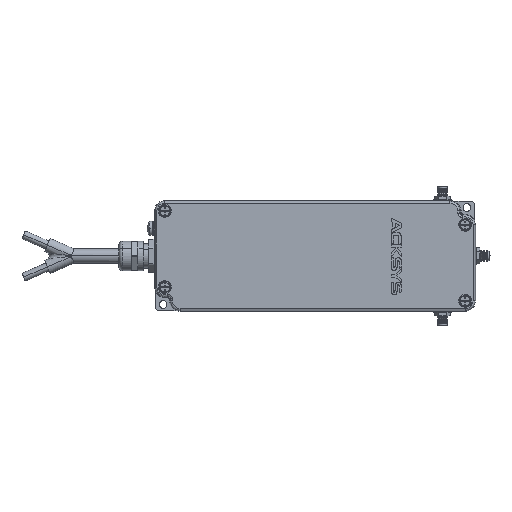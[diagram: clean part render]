
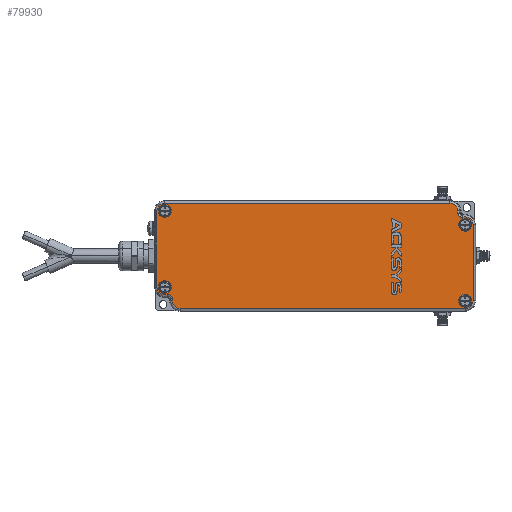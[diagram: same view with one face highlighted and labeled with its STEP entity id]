
A CAD part, top view. The second image highlights one B-rep face of the part: STEP entity #79930.
In plain terms, the highlighted planar face has unit normal (0, 0, 1).
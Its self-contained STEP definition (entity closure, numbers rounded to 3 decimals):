
#74762=CARTESIAN_POINT('',(90.45,18.0,34.5));
#74763=VERTEX_POINT('',#74762);
#74779=CARTESIAN_POINT('',(83.05,18.0,34.5));
#74780=VERTEX_POINT('',#74779);
#74787=CARTESIAN_POINT('',(86.75,18.0,34.5));
#74788=DIRECTION('',(0.0,0.0,-1.0));
#74789=DIRECTION('',(1.0,0.0,0.0));
#74790=AXIS2_PLACEMENT_3D('',#74787,#74788,#74789);
#74791=CIRCLE('',#74790,3.7);
#74792=EDGE_CURVE('',#74763,#74780,#74791,.T.);
#74942=CARTESIAN_POINT('',(90.45,-26.0,34.5));
#74943=VERTEX_POINT('',#74942);
#74959=CARTESIAN_POINT('',(83.05,-26.0,34.5));
#74960=VERTEX_POINT('',#74959);
#74967=CARTESIAN_POINT('',(86.75,-26.0,34.5));
#74968=DIRECTION('',(0.0,0.0,-1.0));
#74969=DIRECTION('',(1.0,0.0,0.0));
#74970=AXIS2_PLACEMENT_3D('',#74967,#74968,#74969);
#74971=CIRCLE('',#74970,3.7);
#74972=EDGE_CURVE('',#74943,#74960,#74971,.T.);
#75122=CARTESIAN_POINT('',(-83.05,-18.0,34.5));
#75123=VERTEX_POINT('',#75122);
#75139=CARTESIAN_POINT('',(-90.45,-18.0,34.5));
#75140=VERTEX_POINT('',#75139);
#75147=CARTESIAN_POINT('',(-86.75,-18.0,34.5));
#75148=DIRECTION('',(0.0,0.0,-1.0));
#75149=DIRECTION('',(1.0,0.0,0.0));
#75150=AXIS2_PLACEMENT_3D('',#75147,#75148,#75149);
#75151=CIRCLE('',#75150,3.7);
#75152=EDGE_CURVE('',#75123,#75140,#75151,.T.);
#75302=CARTESIAN_POINT('',(-83.05,26.0,34.5));
#75303=VERTEX_POINT('',#75302);
#75319=CARTESIAN_POINT('',(-90.45,26.0,34.5));
#75320=VERTEX_POINT('',#75319);
#75327=CARTESIAN_POINT('',(-86.75,26.0,34.5));
#75328=DIRECTION('',(0.0,0.0,-1.0));
#75329=DIRECTION('',(1.0,0.0,0.0));
#75330=AXIS2_PLACEMENT_3D('',#75327,#75328,#75329);
#75331=CIRCLE('',#75330,3.7);
#75332=EDGE_CURVE('',#75303,#75320,#75331,.T.);
#77361=CARTESIAN_POINT('',(-86.75,26.0,34.5));
#77362=DIRECTION('',(0.0,0.0,-1.0));
#77363=DIRECTION('',(1.0,0.0,0.0));
#77364=AXIS2_PLACEMENT_3D('',#77361,#77362,#77363);
#77365=CIRCLE('',#77364,3.7);
#77366=EDGE_CURVE('',#75320,#75303,#77365,.T.);
#77471=CARTESIAN_POINT('',(-86.75,-18.0,34.5));
#77472=DIRECTION('',(0.0,0.0,-1.0));
#77473=DIRECTION('',(1.0,0.0,0.0));
#77474=AXIS2_PLACEMENT_3D('',#77471,#77472,#77473);
#77475=CIRCLE('',#77474,3.7);
#77476=EDGE_CURVE('',#75140,#75123,#77475,.T.);
#77581=CARTESIAN_POINT('',(86.75,-26.0,34.5));
#77582=DIRECTION('',(0.0,0.0,-1.0));
#77583=DIRECTION('',(1.0,0.0,0.0));
#77584=AXIS2_PLACEMENT_3D('',#77581,#77582,#77583);
#77585=CIRCLE('',#77584,3.7);
#77586=EDGE_CURVE('',#74960,#74943,#77585,.T.);
#77691=CARTESIAN_POINT('',(86.75,18.0,34.5));
#77692=DIRECTION('',(0.0,0.0,-1.0));
#77693=DIRECTION('',(1.0,0.0,0.0));
#77694=AXIS2_PLACEMENT_3D('',#77691,#77692,#77693);
#77695=CIRCLE('',#77694,3.7);
#77696=EDGE_CURVE('',#74780,#74763,#77695,.T.);
#79660=CARTESIAN_POINT('',(91.304,-26.0,34.5));
#79661=VERTEX_POINT('',#79660);
#79669=CARTESIAN_POINT('',(86.75,-30.554,34.5));
#79670=VERTEX_POINT('',#79669);
#79671=CARTESIAN_POINT('',(86.75,-26.0,34.5));
#79672=DIRECTION('',(0.0,0.0,1.0));
#79673=DIRECTION('',(0.0,-1.0,0.0));
#79674=AXIS2_PLACEMENT_3D('',#79671,#79672,#79673);
#79675=CIRCLE('',#79674,4.554);
#79676=EDGE_CURVE('',#79670,#79661,#79675,.T.);
#79727=CARTESIAN_POINT('',(-85.464,-22.369,34.5));
#79728=VERTEX_POINT('',#79727);
#79744=CARTESIAN_POINT('',(-91.304,-18.,34.5));
#79745=VERTEX_POINT('',#79744);
#79746=CARTESIAN_POINT('',(-86.75,-18.0,34.5));
#79747=DIRECTION('',(0.0,0.0,-1.0));
#79748=DIRECTION('',(1.0,0.,0.0));
#79749=AXIS2_PLACEMENT_3D('',#79746,#79747,#79748);
#79750=CIRCLE('',#79749,4.554);
#79751=EDGE_CURVE('',#79728,#79745,#79750,.T.);
#79779=CARTESIAN_POINT('',(-82.504,-24.76,34.5));
#79780=VERTEX_POINT('',#79779);
#79788=CARTESIAN_POINT('',(-84.95,-24.76,34.5));
#79789=DIRECTION('',(0.0,0.0,1.0));
#79790=DIRECTION('',(1.0,0.0,0.0));
#79791=AXIS2_PLACEMENT_3D('',#79788,#79789,#79790);
#79792=CIRCLE('',#79791,2.446);
#79793=EDGE_CURVE('',#79780,#79728,#79792,.T.);
#79815=CARTESIAN_POINT('',(91.304,-26.0,34.5));
#79816=DIRECTION('',(0.0,0.0,1.0));
#79817=DIRECTION('',(1.0,0.0,0.0));
#79818=AXIS2_PLACEMENT_3D('',#79815,#79816,#79817);
#79819=PLANE('',#79818);
#79820=ORIENTED_EDGE('',*,*,#79751,.F.);
#79821=ORIENTED_EDGE('',*,*,#79793,.F.);
#79822=CARTESIAN_POINT('',(-82.504,-26.,34.5));
#79823=VERTEX_POINT('',#79822);
#79824=CARTESIAN_POINT('',(-82.504,-26.,34.5));
#79825=DIRECTION('',(0.0,1.0,0.0));
#79826=VECTOR('',#79825,1.24);
#79827=LINE('',#79824,#79826);
#79828=EDGE_CURVE('',#79823,#79780,#79827,.T.);
#79829=ORIENTED_EDGE('',*,*,#79828,.F.);
#79830=CARTESIAN_POINT('',(-77.95,-30.554,34.5));
#79831=VERTEX_POINT('',#79830);
#79832=CARTESIAN_POINT('',(-77.95,-26.0,34.5));
#79833=DIRECTION('',(0.0,0.0,-1.0));
#79834=DIRECTION('',(0.0,-1.0,0.0));
#79835=AXIS2_PLACEMENT_3D('',#79832,#79833,#79834);
#79836=CIRCLE('',#79835,4.554);
#79837=EDGE_CURVE('',#79831,#79823,#79836,.T.);
#79838=ORIENTED_EDGE('',*,*,#79837,.F.);
#79839=CARTESIAN_POINT('',(86.75,-30.554,34.5));
#79840=DIRECTION('',(-1.0,0.0,0.0));
#79841=VECTOR('',#79840,164.7);
#79842=LINE('',#79839,#79841);
#79843=EDGE_CURVE('',#79670,#79831,#79842,.T.);
#79844=ORIENTED_EDGE('',*,*,#79843,.F.);
#79845=ORIENTED_EDGE('',*,*,#79676,.T.);
#79846=CARTESIAN_POINT('',(91.304,18.0,34.5));
#79847=VERTEX_POINT('',#79846);
#79848=CARTESIAN_POINT('',(91.304,-26.0,34.5));
#79849=DIRECTION('',(0.0,1.0,0.0));
#79850=VECTOR('',#79849,44.0);
#79851=LINE('',#79848,#79850);
#79852=EDGE_CURVE('',#79661,#79847,#79851,.T.);
#79853=ORIENTED_EDGE('',*,*,#79852,.T.);
#79854=CARTESIAN_POINT('',(85.464,22.369,34.5));
#79855=VERTEX_POINT('',#79854);
#79856=CARTESIAN_POINT('',(86.75,18.0,34.5));
#79857=DIRECTION('',(0.0,0.0,1.0));
#79858=DIRECTION('',(1.0,0.0,0.0));
#79859=AXIS2_PLACEMENT_3D('',#79856,#79857,#79858);
#79860=CIRCLE('',#79859,4.554);
#79861=EDGE_CURVE('',#79847,#79855,#79860,.T.);
#79862=ORIENTED_EDGE('',*,*,#79861,.T.);
#79863=CARTESIAN_POINT('',(82.504,24.76,34.5));
#79864=VERTEX_POINT('',#79863);
#79865=CARTESIAN_POINT('',(84.95,24.76,34.5));
#79866=DIRECTION('',(0.0,0.0,-1.));
#79867=DIRECTION('',(0.257,-0.966,0.0));
#79868=AXIS2_PLACEMENT_3D('',#79865,#79866,#79867);
#79869=CIRCLE('',#79868,2.446);
#79870=EDGE_CURVE('',#79855,#79864,#79869,.T.);
#79871=ORIENTED_EDGE('',*,*,#79870,.T.);
#79872=CARTESIAN_POINT('',(82.504,26.0,34.5));
#79873=VERTEX_POINT('',#79872);
#79874=CARTESIAN_POINT('',(82.504,26.0,34.5));
#79875=DIRECTION('',(0.0,-1.0,0.0));
#79876=VECTOR('',#79875,1.24);
#79877=LINE('',#79874,#79876);
#79878=EDGE_CURVE('',#79873,#79864,#79877,.T.);
#79879=ORIENTED_EDGE('',*,*,#79878,.F.);
#79880=CARTESIAN_POINT('',(77.95,30.554,34.5));
#79881=VERTEX_POINT('',#79880);
#79882=CARTESIAN_POINT('',(77.95,26.0,34.5));
#79883=DIRECTION('',(0.0,0.0,1.0));
#79884=DIRECTION('',(1.0,0.0,0.0));
#79885=AXIS2_PLACEMENT_3D('',#79882,#79883,#79884);
#79886=CIRCLE('',#79885,4.554);
#79887=EDGE_CURVE('',#79873,#79881,#79886,.T.);
#79888=ORIENTED_EDGE('',*,*,#79887,.T.);
#79889=CARTESIAN_POINT('',(-86.75,30.554,34.5));
#79890=VERTEX_POINT('',#79889);
#79891=CARTESIAN_POINT('',(77.95,30.554,34.5));
#79892=DIRECTION('',(-1.0,0.0,0.0));
#79893=VECTOR('',#79892,164.7);
#79894=LINE('',#79891,#79893);
#79895=EDGE_CURVE('',#79881,#79890,#79894,.T.);
#79896=ORIENTED_EDGE('',*,*,#79895,.T.);
#79897=CARTESIAN_POINT('',(-91.304,26.0,34.5));
#79898=VERTEX_POINT('',#79897);
#79899=CARTESIAN_POINT('',(-86.75,26.0,34.5));
#79900=DIRECTION('',(0.0,0.0,-1.0));
#79901=DIRECTION('',(-1.0,0.0,0.0));
#79902=AXIS2_PLACEMENT_3D('',#79899,#79900,#79901);
#79903=CIRCLE('',#79902,4.554);
#79904=EDGE_CURVE('',#79898,#79890,#79903,.T.);
#79905=ORIENTED_EDGE('',*,*,#79904,.F.);
#79906=CARTESIAN_POINT('',(-91.304,-18.,34.5));
#79907=DIRECTION('',(0.0,1.0,0.0));
#79908=VECTOR('',#79907,44.);
#79909=LINE('',#79906,#79908);
#79910=EDGE_CURVE('',#79745,#79898,#79909,.T.);
#79911=ORIENTED_EDGE('',*,*,#79910,.F.);
#79912=EDGE_LOOP('',(#79820,#79821,#79829,#79838,#79844,#79845,#79853,#79862,#79871,#79879,#79888,#79896,#79905,#79911));
#79913=FACE_OUTER_BOUND('',#79912,.T.);
#79914=ORIENTED_EDGE('',*,*,#75332,.T.);
#79915=ORIENTED_EDGE('',*,*,#77366,.T.);
#79916=EDGE_LOOP('',(#79914,#79915));
#79917=FACE_BOUND('',#79916,.T.);
#79918=ORIENTED_EDGE('',*,*,#75152,.T.);
#79919=ORIENTED_EDGE('',*,*,#77476,.T.);
#79920=EDGE_LOOP('',(#79918,#79919));
#79921=FACE_BOUND('',#79920,.T.);
#79922=ORIENTED_EDGE('',*,*,#74972,.T.);
#79923=ORIENTED_EDGE('',*,*,#77586,.T.);
#79924=EDGE_LOOP('',(#79922,#79923));
#79925=FACE_BOUND('',#79924,.T.);
#79926=ORIENTED_EDGE('',*,*,#74792,.T.);
#79927=ORIENTED_EDGE('',*,*,#77696,.T.);
#79928=EDGE_LOOP('',(#79926,#79927));
#79929=FACE_BOUND('',#79928,.T.);
#79930=ADVANCED_FACE('',(#79913,#79917,#79921,#79925,#79929),#79819,.T.);
